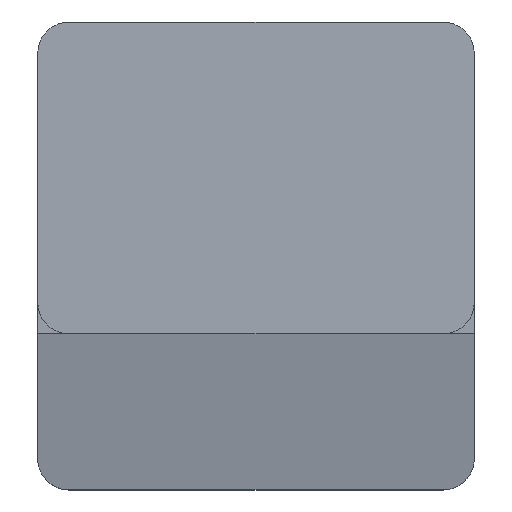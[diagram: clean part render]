
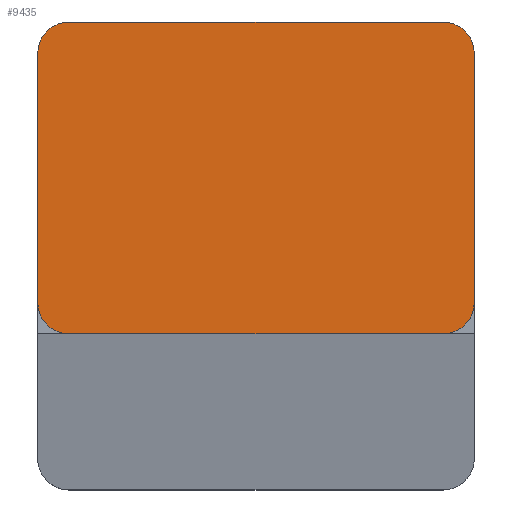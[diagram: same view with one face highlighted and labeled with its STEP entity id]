
A CAD part, top view. The second image highlights one B-rep face of the part: STEP entity #9435.
In plain terms, the highlighted planar face has unit normal (0, 0, 1).
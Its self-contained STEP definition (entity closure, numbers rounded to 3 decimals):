
#9319 = EDGE_CURVE('',#9320,#9322,#9324,.T.);
#9320 = VERTEX_POINT('',#9321);
#9321 = CARTESIAN_POINT('',(-140.,-30.,110.));
#9322 = VERTEX_POINT('',#9323);
#9323 = CARTESIAN_POINT('',(-140.,130.,110.));
#9324 = SURFACE_CURVE('',#9325,(#9329,#9341),.PCURVE_S1.);
#9325 = LINE('',#9326,#9327);
#9326 = CARTESIAN_POINT('',(-140.,-50.,110.));
#9327 = VECTOR('',#9328,1.);
#9328 = DIRECTION('',(0.,1.,0.));
#9329 = PCURVE('',#9330,#9335);
#9330 = PLANE('',#9331);
#9331 = AXIS2_PLACEMENT_3D('',#9332,#9333,#9334);
#9332 = CARTESIAN_POINT('',(-140.,-50.,104.));
#9333 = DIRECTION('',(1.,0.,0.));
#9334 = DIRECTION('',(0.,0.,1.));
#9335 = DEFINITIONAL_REPRESENTATION('',(#9336),#9340);
#9336 = LINE('',#9337,#9338);
#9337 = CARTESIAN_POINT('',(6.,0.));
#9338 = VECTOR('',#9339,1.);
#9339 = DIRECTION('',(0.,-1.));
#9340 = ( GEOMETRIC_REPRESENTATION_CONTEXT(2) 
PARAMETRIC_REPRESENTATION_CONTEXT() REPRESENTATION_CONTEXT('2D SPACE',''
  ) );
#9341 = PCURVE('',#9342,#9347);
#9342 = PLANE('',#9343);
#9343 = AXIS2_PLACEMENT_3D('',#9344,#9345,#9346);
#9344 = CARTESIAN_POINT('',(-140.,-50.,110.));
#9345 = DIRECTION('',(0.,0.,1.));
#9346 = DIRECTION('',(1.,0.,0.));
#9347 = DEFINITIONAL_REPRESENTATION('',(#9348),#9352);
#9348 = LINE('',#9349,#9350);
#9349 = CARTESIAN_POINT('',(0.,0.));
#9350 = VECTOR('',#9351,1.);
#9351 = DIRECTION('',(0.,1.));
#9352 = ( GEOMETRIC_REPRESENTATION_CONTEXT(2) 
PARAMETRIC_REPRESENTATION_CONTEXT() REPRESENTATION_CONTEXT('2D SPACE',''
  ) );
#9370 = CYLINDRICAL_SURFACE('',#9371,20.);
#9371 = AXIS2_PLACEMENT_3D('',#9372,#9373,#9374);
#9372 = CARTESIAN_POINT('',(-120.,-30.,104.));
#9373 = DIRECTION('',(0.,0.,1.));
#9374 = DIRECTION('',(-1.,-0.,0.));
#9424 = CYLINDRICAL_SURFACE('',#9425,20.);
#9425 = AXIS2_PLACEMENT_3D('',#9426,#9427,#9428);
#9426 = CARTESIAN_POINT('',(-120.,130.,104.));
#9427 = DIRECTION('',(0.,0.,1.));
#9428 = DIRECTION('',(-1.,-0.,0.));
#9435 = ADVANCED_FACE('',(#9436),#9342,.T.);
#9436 = FACE_BOUND('',#9437,.T.);
#9437 = EDGE_LOOP('',(#9438,#9439,#9463,#9491,#9524,#9552,#9581,#9609));
#9438 = ORIENTED_EDGE('',*,*,#9319,.F.);
#9439 = ORIENTED_EDGE('',*,*,#9440,.T.);
#9440 = EDGE_CURVE('',#9320,#9441,#9443,.T.);
#9441 = VERTEX_POINT('',#9442);
#9442 = CARTESIAN_POINT('',(-120.,-50.,110.));
#9443 = SURFACE_CURVE('',#9444,(#9449,#9456),.PCURVE_S1.);
#9444 = CIRCLE('',#9445,20.);
#9445 = AXIS2_PLACEMENT_3D('',#9446,#9447,#9448);
#9446 = CARTESIAN_POINT('',(-120.,-30.,110.));
#9447 = DIRECTION('',(0.,0.,1.));
#9448 = DIRECTION('',(0.,-1.,0.));
#9449 = PCURVE('',#9342,#9450);
#9450 = DEFINITIONAL_REPRESENTATION('',(#9451),#9455);
#9451 = CIRCLE('',#9452,20.);
#9452 = AXIS2_PLACEMENT_2D('',#9453,#9454);
#9453 = CARTESIAN_POINT('',(20.,20.));
#9454 = DIRECTION('',(0.,-1.));
#9455 = ( GEOMETRIC_REPRESENTATION_CONTEXT(2) 
PARAMETRIC_REPRESENTATION_CONTEXT() REPRESENTATION_CONTEXT('2D SPACE',''
  ) );
#9456 = PCURVE('',#9370,#9457);
#9457 = DEFINITIONAL_REPRESENTATION('',(#9458),#9462);
#9458 = LINE('',#9459,#9460);
#9459 = CARTESIAN_POINT('',(-4.712,6.));
#9460 = VECTOR('',#9461,1.);
#9461 = DIRECTION('',(1.,0.));
#9462 = ( GEOMETRIC_REPRESENTATION_CONTEXT(2) 
PARAMETRIC_REPRESENTATION_CONTEXT() REPRESENTATION_CONTEXT('2D SPACE',''
  ) );
#9463 = ORIENTED_EDGE('',*,*,#9464,.T.);
#9464 = EDGE_CURVE('',#9441,#9465,#9467,.T.);
#9465 = VERTEX_POINT('',#9466);
#9466 = CARTESIAN_POINT('',(120.,-50.,110.));
#9467 = SURFACE_CURVE('',#9468,(#9472,#9479),.PCURVE_S1.);
#9468 = LINE('',#9469,#9470);
#9469 = CARTESIAN_POINT('',(-140.,-50.,110.));
#9470 = VECTOR('',#9471,1.);
#9471 = DIRECTION('',(1.,0.,0.));
#9472 = PCURVE('',#9342,#9473);
#9473 = DEFINITIONAL_REPRESENTATION('',(#9474),#9478);
#9474 = LINE('',#9475,#9476);
#9475 = CARTESIAN_POINT('',(0.,0.));
#9476 = VECTOR('',#9477,1.);
#9477 = DIRECTION('',(1.,0.));
#9478 = ( GEOMETRIC_REPRESENTATION_CONTEXT(2) 
PARAMETRIC_REPRESENTATION_CONTEXT() REPRESENTATION_CONTEXT('2D SPACE',''
  ) );
#9479 = PCURVE('',#9480,#9485);
#9480 = PLANE('',#9481);
#9481 = AXIS2_PLACEMENT_3D('',#9482,#9483,#9484);
#9482 = CARTESIAN_POINT('',(-140.,-50.,104.));
#9483 = DIRECTION('',(0.,1.,0.));
#9484 = DIRECTION('',(0.,0.,1.));
#9485 = DEFINITIONAL_REPRESENTATION('',(#9486),#9490);
#9486 = LINE('',#9487,#9488);
#9487 = CARTESIAN_POINT('',(6.,0.));
#9488 = VECTOR('',#9489,1.);
#9489 = DIRECTION('',(0.,1.));
#9490 = ( GEOMETRIC_REPRESENTATION_CONTEXT(2) 
PARAMETRIC_REPRESENTATION_CONTEXT() REPRESENTATION_CONTEXT('2D SPACE',''
  ) );
#9491 = ORIENTED_EDGE('',*,*,#9492,.F.);
#9492 = EDGE_CURVE('',#9493,#9465,#9495,.T.);
#9493 = VERTEX_POINT('',#9494);
#9494 = CARTESIAN_POINT('',(140.,-30.,110.));
#9495 = SURFACE_CURVE('',#9496,(#9501,#9512),.PCURVE_S1.);
#9496 = CIRCLE('',#9497,20.);
#9497 = AXIS2_PLACEMENT_3D('',#9498,#9499,#9500);
#9498 = CARTESIAN_POINT('',(120.,-30.,110.));
#9499 = DIRECTION('',(-0.,-0.,-1.));
#9500 = DIRECTION('',(0.,-1.,0.));
#9501 = PCURVE('',#9342,#9502);
#9502 = DEFINITIONAL_REPRESENTATION('',(#9503),#9511);
#9503 = ( BOUNDED_CURVE() B_SPLINE_CURVE(2,(#9504,#9505,#9506,#9507,
#9508,#9509,#9510),.UNSPECIFIED.,.T.,.F.) B_SPLINE_CURVE_WITH_KNOTS((1,2
    ,2,2,2,1),(-2.094,0.,2.094,4.189,
6.283,8.378),.UNSPECIFIED.) CURVE() 
GEOMETRIC_REPRESENTATION_ITEM() RATIONAL_B_SPLINE_CURVE((1.,0.5,1.,0.5,
1.,0.5,1.)) REPRESENTATION_ITEM('') );
#9504 = CARTESIAN_POINT('',(260.,0.));
#9505 = CARTESIAN_POINT('',(225.359,0.));
#9506 = CARTESIAN_POINT('',(242.679,30.));
#9507 = CARTESIAN_POINT('',(260.,60.));
#9508 = CARTESIAN_POINT('',(277.321,30.));
#9509 = CARTESIAN_POINT('',(294.641,0.));
#9510 = CARTESIAN_POINT('',(260.,0.));
#9511 = ( GEOMETRIC_REPRESENTATION_CONTEXT(2) 
PARAMETRIC_REPRESENTATION_CONTEXT() REPRESENTATION_CONTEXT('2D SPACE',''
  ) );
#9512 = PCURVE('',#9513,#9518);
#9513 = CYLINDRICAL_SURFACE('',#9514,20.);
#9514 = AXIS2_PLACEMENT_3D('',#9515,#9516,#9517);
#9515 = CARTESIAN_POINT('',(120.,-30.,104.));
#9516 = DIRECTION('',(0.,0.,1.));
#9517 = DIRECTION('',(1.,0.,-0.));
#9518 = DEFINITIONAL_REPRESENTATION('',(#9519),#9523);
#9519 = LINE('',#9520,#9521);
#9520 = CARTESIAN_POINT('',(4.712,6.));
#9521 = VECTOR('',#9522,1.);
#9522 = DIRECTION('',(-1.,0.));
#9523 = ( GEOMETRIC_REPRESENTATION_CONTEXT(2) 
PARAMETRIC_REPRESENTATION_CONTEXT() REPRESENTATION_CONTEXT('2D SPACE',''
  ) );
#9524 = ORIENTED_EDGE('',*,*,#9525,.T.);
#9525 = EDGE_CURVE('',#9493,#9526,#9528,.T.);
#9526 = VERTEX_POINT('',#9527);
#9527 = CARTESIAN_POINT('',(140.,130.,110.));
#9528 = SURFACE_CURVE('',#9529,(#9533,#9540),.PCURVE_S1.);
#9529 = LINE('',#9530,#9531);
#9530 = CARTESIAN_POINT('',(140.,-50.,110.));
#9531 = VECTOR('',#9532,1.);
#9532 = DIRECTION('',(0.,1.,0.));
#9533 = PCURVE('',#9342,#9534);
#9534 = DEFINITIONAL_REPRESENTATION('',(#9535),#9539);
#9535 = LINE('',#9536,#9537);
#9536 = CARTESIAN_POINT('',(280.,0.));
#9537 = VECTOR('',#9538,1.);
#9538 = DIRECTION('',(0.,1.));
#9539 = ( GEOMETRIC_REPRESENTATION_CONTEXT(2) 
PARAMETRIC_REPRESENTATION_CONTEXT() REPRESENTATION_CONTEXT('2D SPACE',''
  ) );
#9540 = PCURVE('',#9541,#9546);
#9541 = PLANE('',#9542);
#9542 = AXIS2_PLACEMENT_3D('',#9543,#9544,#9545);
#9543 = CARTESIAN_POINT('',(140.,-50.,104.));
#9544 = DIRECTION('',(1.,0.,0.));
#9545 = DIRECTION('',(0.,0.,1.));
#9546 = DEFINITIONAL_REPRESENTATION('',(#9547),#9551);
#9547 = LINE('',#9548,#9549);
#9548 = CARTESIAN_POINT('',(6.,0.));
#9549 = VECTOR('',#9550,1.);
#9550 = DIRECTION('',(0.,-1.));
#9551 = ( GEOMETRIC_REPRESENTATION_CONTEXT(2) 
PARAMETRIC_REPRESENTATION_CONTEXT() REPRESENTATION_CONTEXT('2D SPACE',''
  ) );
#9552 = ORIENTED_EDGE('',*,*,#9553,.T.);
#9553 = EDGE_CURVE('',#9526,#9554,#9556,.T.);
#9554 = VERTEX_POINT('',#9555);
#9555 = CARTESIAN_POINT('',(120.,150.,110.));
#9556 = SURFACE_CURVE('',#9557,(#9562,#9569),.PCURVE_S1.);
#9557 = CIRCLE('',#9558,20.);
#9558 = AXIS2_PLACEMENT_3D('',#9559,#9560,#9561);
#9559 = CARTESIAN_POINT('',(120.,130.,110.));
#9560 = DIRECTION('',(0.,0.,1.));
#9561 = DIRECTION('',(0.,-1.,0.));
#9562 = PCURVE('',#9342,#9563);
#9563 = DEFINITIONAL_REPRESENTATION('',(#9564),#9568);
#9564 = CIRCLE('',#9565,20.);
#9565 = AXIS2_PLACEMENT_2D('',#9566,#9567);
#9566 = CARTESIAN_POINT('',(260.,180.));
#9567 = DIRECTION('',(0.,-1.));
#9568 = ( GEOMETRIC_REPRESENTATION_CONTEXT(2) 
PARAMETRIC_REPRESENTATION_CONTEXT() REPRESENTATION_CONTEXT('2D SPACE',''
  ) );
#9569 = PCURVE('',#9570,#9575);
#9570 = CYLINDRICAL_SURFACE('',#9571,20.);
#9571 = AXIS2_PLACEMENT_3D('',#9572,#9573,#9574);
#9572 = CARTESIAN_POINT('',(120.,130.,104.));
#9573 = DIRECTION('',(0.,0.,1.));
#9574 = DIRECTION('',(1.,0.,-0.));
#9575 = DEFINITIONAL_REPRESENTATION('',(#9576),#9580);
#9576 = LINE('',#9577,#9578);
#9577 = CARTESIAN_POINT('',(-1.571,6.));
#9578 = VECTOR('',#9579,1.);
#9579 = DIRECTION('',(1.,0.));
#9580 = ( GEOMETRIC_REPRESENTATION_CONTEXT(2) 
PARAMETRIC_REPRESENTATION_CONTEXT() REPRESENTATION_CONTEXT('2D SPACE',''
  ) );
#9581 = ORIENTED_EDGE('',*,*,#9582,.F.);
#9582 = EDGE_CURVE('',#9583,#9554,#9585,.T.);
#9583 = VERTEX_POINT('',#9584);
#9584 = CARTESIAN_POINT('',(-120.,150.,110.));
#9585 = SURFACE_CURVE('',#9586,(#9590,#9597),.PCURVE_S1.);
#9586 = LINE('',#9587,#9588);
#9587 = CARTESIAN_POINT('',(-140.,150.,110.));
#9588 = VECTOR('',#9589,1.);
#9589 = DIRECTION('',(1.,0.,0.));
#9590 = PCURVE('',#9342,#9591);
#9591 = DEFINITIONAL_REPRESENTATION('',(#9592),#9596);
#9592 = LINE('',#9593,#9594);
#9593 = CARTESIAN_POINT('',(0.,200.));
#9594 = VECTOR('',#9595,1.);
#9595 = DIRECTION('',(1.,0.));
#9596 = ( GEOMETRIC_REPRESENTATION_CONTEXT(2) 
PARAMETRIC_REPRESENTATION_CONTEXT() REPRESENTATION_CONTEXT('2D SPACE',''
  ) );
#9597 = PCURVE('',#9598,#9603);
#9598 = PLANE('',#9599);
#9599 = AXIS2_PLACEMENT_3D('',#9600,#9601,#9602);
#9600 = CARTESIAN_POINT('',(-140.,150.,104.));
#9601 = DIRECTION('',(0.,1.,0.));
#9602 = DIRECTION('',(0.,0.,1.));
#9603 = DEFINITIONAL_REPRESENTATION('',(#9604),#9608);
#9604 = LINE('',#9605,#9606);
#9605 = CARTESIAN_POINT('',(6.,0.));
#9606 = VECTOR('',#9607,1.);
#9607 = DIRECTION('',(0.,1.));
#9608 = ( GEOMETRIC_REPRESENTATION_CONTEXT(2) 
PARAMETRIC_REPRESENTATION_CONTEXT() REPRESENTATION_CONTEXT('2D SPACE',''
  ) );
#9609 = ORIENTED_EDGE('',*,*,#9610,.F.);
#9610 = EDGE_CURVE('',#9322,#9583,#9611,.T.);
#9611 = SURFACE_CURVE('',#9612,(#9617,#9628),.PCURVE_S1.);
#9612 = CIRCLE('',#9613,20.);
#9613 = AXIS2_PLACEMENT_3D('',#9614,#9615,#9616);
#9614 = CARTESIAN_POINT('',(-120.,130.,110.));
#9615 = DIRECTION('',(-0.,-0.,-1.));
#9616 = DIRECTION('',(0.,-1.,0.));
#9617 = PCURVE('',#9342,#9618);
#9618 = DEFINITIONAL_REPRESENTATION('',(#9619),#9627);
#9619 = ( BOUNDED_CURVE() B_SPLINE_CURVE(2,(#9620,#9621,#9622,#9623,
#9624,#9625,#9626),.UNSPECIFIED.,.T.,.F.) B_SPLINE_CURVE_WITH_KNOTS((1,2
    ,2,2,2,1),(-2.094,0.,2.094,4.189,
6.283,8.378),.UNSPECIFIED.) CURVE() 
GEOMETRIC_REPRESENTATION_ITEM() RATIONAL_B_SPLINE_CURVE((1.,0.5,1.,0.5,
1.,0.5,1.)) REPRESENTATION_ITEM('') );
#9620 = CARTESIAN_POINT('',(20.,160.));
#9621 = CARTESIAN_POINT('',(-14.641,160.));
#9622 = CARTESIAN_POINT('',(2.679,190.));
#9623 = CARTESIAN_POINT('',(20.,220.));
#9624 = CARTESIAN_POINT('',(37.321,190.));
#9625 = CARTESIAN_POINT('',(54.641,160.));
#9626 = CARTESIAN_POINT('',(20.,160.));
#9627 = ( GEOMETRIC_REPRESENTATION_CONTEXT(2) 
PARAMETRIC_REPRESENTATION_CONTEXT() REPRESENTATION_CONTEXT('2D SPACE',''
  ) );
#9628 = PCURVE('',#9424,#9629);
#9629 = DEFINITIONAL_REPRESENTATION('',(#9630),#9634);
#9630 = LINE('',#9631,#9632);
#9631 = CARTESIAN_POINT('',(1.571,6.));
#9632 = VECTOR('',#9633,1.);
#9633 = DIRECTION('',(-1.,0.));
#9634 = ( GEOMETRIC_REPRESENTATION_CONTEXT(2) 
PARAMETRIC_REPRESENTATION_CONTEXT() REPRESENTATION_CONTEXT('2D SPACE',''
  ) );
